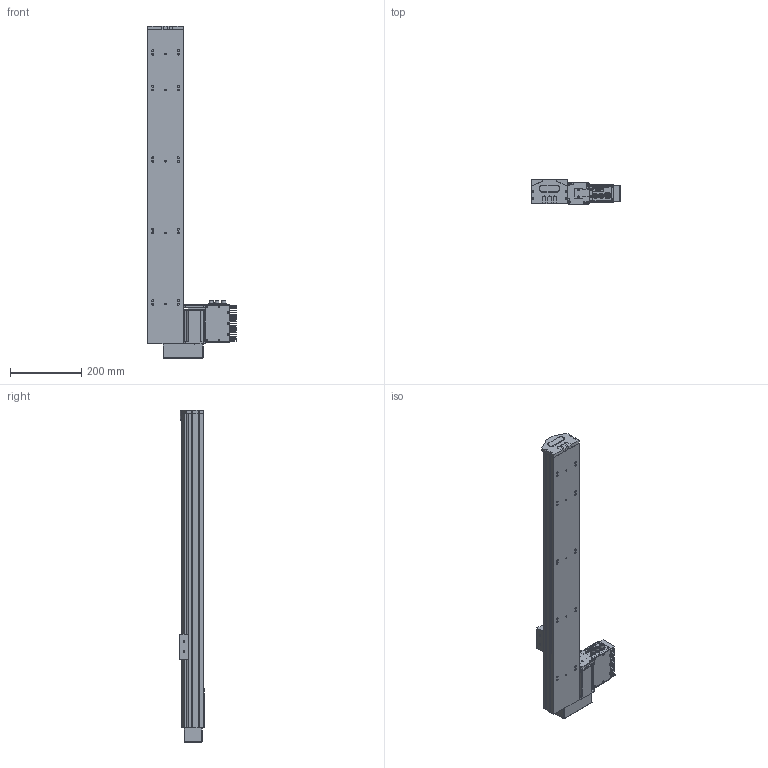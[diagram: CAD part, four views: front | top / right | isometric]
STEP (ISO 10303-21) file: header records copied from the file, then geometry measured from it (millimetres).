
FILE_DESCRIPTION (( 'STEP AP203' ), '1' );
FILE_NAME ('S10 TSN BR S700.STEP', '2012-09-03T08:41:28', ( 'Conseil Régional Haute-Normandie' ), ( 'Conseil Régional Haute-Normandie' ), 'SwSTEP 2.0', 'SolidWorks 2010', '' );
FILE_SCHEMA (( 'CONFIG_CONTROL_DESIGN' ));
Length unit declared in the file: millimetre
Products named in the file (25): BU41 Carte Alimentation P05_3; T_X2_00F4_X0_le fond_3; Connecteur rond D10 3cts_5; Connecteur rond D12 4cts_5; Vis TF 3 torkx_1_1; T_X2_00F4_X0_le lat_X2_00E9_X0_rale_5; remplir_Default; embout_modifié; Pièce2_Default; S10 TSN BR  S700; Assem1_7; T_X2_00F4_X0_le contre le moteur_5; Colonnette_3; BU45 Carte d''axe A11_5; Moteur 60BLDC90A_3; Couvercle_3; Sub D 9cts 90_X2_00B_X0__3; Radiateur profil_X2_00E9_X0_ 100x25_3; Colonnette ronde_3; T_X2_00F4_X0_le Arri_X2_00E8_X0_re_5; palette tbn; axe887; renvoi LH_Default; piece_plastique remplie_Default; Vis TF 3 torkx
Assembly tree (55 placements, depth 3):
  S10 TSN BR  S700
    axe887
    palette tbn
    Vis TF 3 torkx  x7
    piece_plastique remplie_Default
      embout_modifié
      remplir_Default  x3
      Pièce2_Default
    Assem1_7
      Connecteur rond D10 3cts_5  x2
      Vis TF 3 torkx_1_1  x21
      Sub D 9cts 90_X2_00B_X0__3
      Colonnette_3  x2
      BU45 Carte d''axe A11_5
      Connecteur rond D12 4cts_5
      Couvercle_3
      T_X2_00F4_X0_le lat_X2_00E9_X0_rale_5  x2
      Moteur 60BLDC90A_3
      T_X2_00F4_X0_le contre le moteur_5
      Colonnette ronde_3
      BU41 Carte Alimentation P05_3
      T_X2_00F4_X0_le fond_3
      T_X2_00F4_X0_le Arri_X2_00E8_X0_re_5
      Radiateur profil_X2_00E9_X0_ 100x25_3
    renvoi LH_Default
Bounding box: 248 x 68.53 x 929.5 mm (x, y, z)
Volume: 5280562.9 mm3; surface area: 689701.4 mm2
Topology: 53 solids, 53 shells, 1969 faces, 5010 edges, 3266 vertices
Faces by surface type: plane 927, cylinder 879, cone 156, bspline 4, torus 3
Entity records: 38755 total; most frequent: CARTESIAN_POINT 6545, DIRECTION 6307, ORIENTED_EDGE 5728, EDGE_CURVE 2864, AXIS2_PLACEMENT_3D 2317, VERTEX_POINT 1878, VECTOR 1673, LINE 1673
